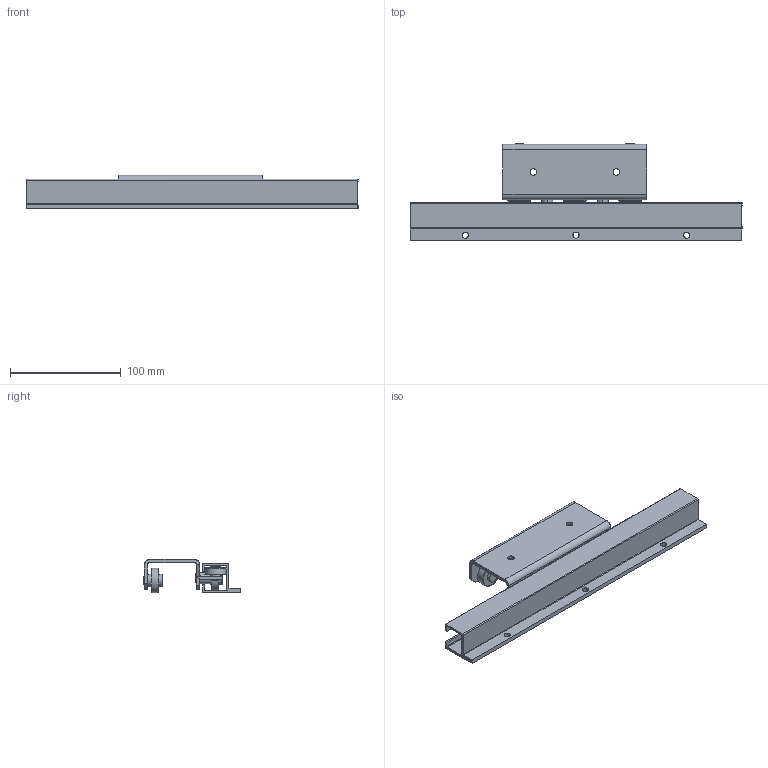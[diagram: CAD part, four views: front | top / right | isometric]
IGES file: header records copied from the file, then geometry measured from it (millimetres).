
Global section: file name: No Iges File Name specified; native system: AutoDesk Inventor R10; preprocessor: AutoDesk Inventor Iges Exporter R10; author: No Author specified; organization: No Organization specified; date: 20110608.135954; units: millimetre
Bounding box: 300 x 88 x 30 mm (x, y, z)
Surface area: 88405.6 mm2 (no closed solid volume)
Topology: 0 solids, 0 shells, 253 faces, 1644 edges, 1644 vertices
Faces by surface type: bspline 253
